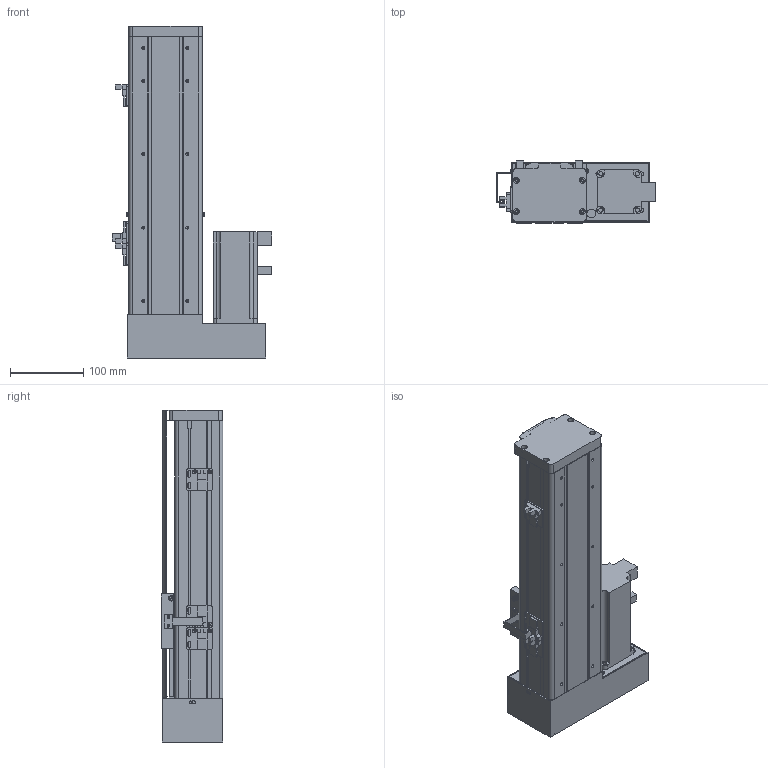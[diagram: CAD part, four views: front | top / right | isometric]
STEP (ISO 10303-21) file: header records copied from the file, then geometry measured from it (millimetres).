
FILE_DESCRIPTION (( 'STEP AP214' ), '1' );
FILE_NAME ('JDBN-100-P10-S200-2L.STEP', '2012-06-13T08:57:41', ( 'TIGER-XP' ), ( '888TIGER' ), 'SwSTEP 2.0', 'SolidWorks 2007', '' );
FILE_SCHEMA (( 'AUTOMOTIVE_DESIGN' ));
Length unit declared in the file: millimetre
Products named in the file (1): JDBN-100-P10-S200-2L
Bounding box: 217.5 x 84.5 x 453 mm (x, y, z)
Surface area: 349465.9 mm2 (no closed solid volume)
Topology: 0 solids, 22 shells, 482 faces, 1702 edges, 1214 vertices
Faces by surface type: plane 266, cylinder 186, torus 14, cone 12, sphere 4
Entity records: 23896 total; most frequent: CARTESIAN_POINT 3639, DIRECTION 3236, ORIENTED_EDGE 2745, EDGE_CURVE 1702, VERTEX_POINT 1214, AXIS2_PLACEMENT_3D 1081, VECTOR 1074, LINE 1074
